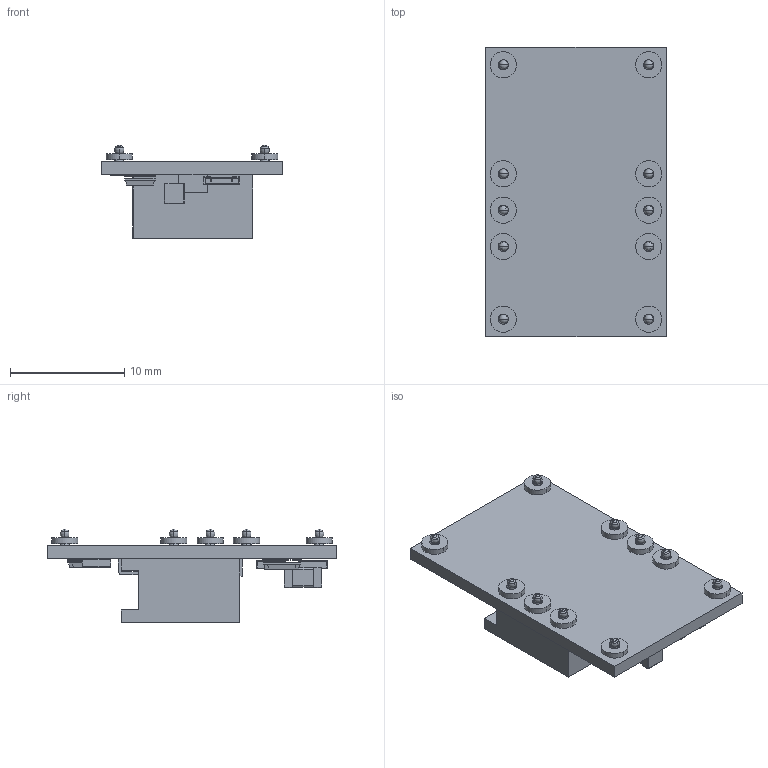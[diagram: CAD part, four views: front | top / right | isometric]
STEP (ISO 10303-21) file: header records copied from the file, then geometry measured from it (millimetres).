
FILE_DESCRIPTION((''),'2;1');
FILE_NAME('PTH12060W_SMT_MM.stp','2019-01-10T13:24:27',(''),(''),'Mechanical Desktop 2009','Mechanical Desktop 2009',', , ');
FILE_SCHEMA(('CONFIG_CONTROL_DESIGN'));
Length unit declared in the file: millimetre
Products named in the file (37): PTH12060W_SMT_MM; BASE; METAL; PCB; 1210_C; ~BODY; SIDE; ~SOLDER; ~~XFMR; XFMRLEG; XFMRLEG2; SOLDERBALL; ~~~~~~~~~~PART1; Chassis 6; PIN04; PIN06; PIN040; NPIN040; XFMR; NFET23018; CAP1210; CAP0603; SYNCMLFP; DZS; LM4040; NFETNCHANNEL2; PNPBC859W; CAP0805; SCHOTTKY SOD123; PP1212-8; CAP1206; PTH08T220_ SMT; Wchip; WXFMR; CAP402; TSSOP28; PIN SMT
Assembly tree (90 placements, depth 3):
  PTH12060W_SMT_MM
    BASE  x4
    METAL  x4
    PCB
    1210_C  x3
      ~BODY
      SIDE
    ~SOLDER  x20
    ~~XFMR
    XFMRLEG
    XFMRLEG2  x2
    SOLDERBALL  x10
    ~~~~~~~~~~PART1
    Chassis 6
      PIN04
      PIN06
      PIN040
      NPIN040  x8
      XFMR
      NFET23018
      CAP1210
      CAP0603
      SYNCMLFP
      DZS
      LM4040
      NFETNCHANNEL2
      PNPBC859W
      CAP0805  x2
      SCHOTTKY SOD123
      PP1212-8
      CAP1206
    PTH08T220_ SMT
      PIN04
      PIN06
      PIN040
      Wchip  x2
      CAP0603
      CAP1206  x2
      CAP0805
      WXFMR
      CAP402
      TSSOP28
      PIN SMT
Bounding box: 15.75 x 25.27 x 8.17 mm (x, y, z)
Volume: 1109.7 mm3; surface area: 2068.1 mm2
Topology: 89 solids, 89 shells, 905 faces, 2077 edges, 1282 vertices
Faces by surface type: plane 445, cylinder 292, sphere 84, bspline 44, torus 40
Entity records: 16772 total; most frequent: CARTESIAN_POINT 4651, DIRECTION 2725, ORIENTED_EDGE 2188, AXIS2_PLACEMENT_3D 1141, EDGE_CURVE 1094, VERTEX_POINT 722, CIRCLE 611, EDGE_LOOP 526
